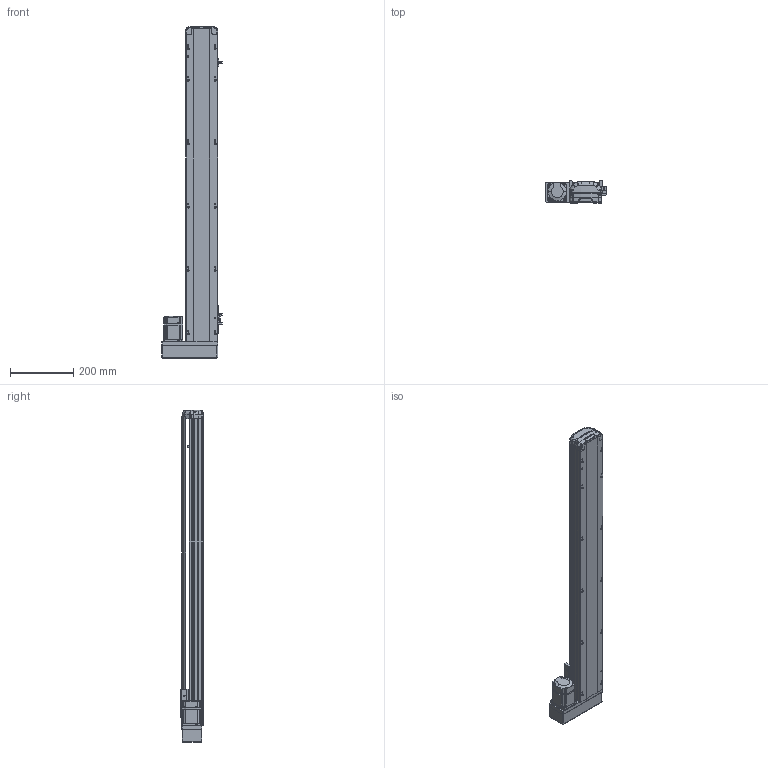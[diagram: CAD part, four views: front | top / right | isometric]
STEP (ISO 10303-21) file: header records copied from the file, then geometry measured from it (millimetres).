
FILE_DESCRIPTION (( 'STEP AP214' ), '1' );
FILE_NAME ('RTH10-XX-800-L-M20-C4.STEP', '2025-10-25T03:48:58', ( 'Microsoft' ), ( 'Microsoft' ), 'SwSTEP 2.0', 'SolidWorks 2018', '' );
FILE_SCHEMA (( 'AUTOMOTIVE_DESIGN' ));
Length unit declared in the file: millimetre
Products named in the file (10): N_200W-1^RTH10-XX-XX-L-M20-C4; N_RTH13-L-012覜茼え俋离^RTH10-XX-XX-L-M20-C4; N_RTH12-M-011P-臏倰第菁釱^RTH10-XX-XX-L-M20-C4; N_RTH12-M-007P-奻裔^RTH10-XX-XX-L-M20-C4; N_RTH12-GY-001P^RTH10-XX-XX-L-M20-C4; RTH10-XX-800-L-M20-C4; N_OMRON EE-SX672 传感器^RTH10-XX-XX-L-M20-C4; N_RTH12-GY-004-賑釱^RTH10-XX-XX-L-M20-C4; N_RTH12-L-018-裔赽^RTH10-XX-XX-L-M20-C4; N_RTH12-L-008萇儂啣^RTH10-XX-XX-L-M20-C4
Assembly tree (11 placements, depth 2):
  RTH10-XX-800-L-M20-C4
    N_RTH12-M-011P-臏倰第菁釱^RTH10-XX-XX-L-M20-C4
    N_RTH13-L-012覜茼え俋离^RTH10-XX-XX-L-M20-C4
    N_OMRON EE-SX672 传感器^RTH10-XX-XX-L-M20-C4  x3
    N_200W-1^RTH10-XX-XX-L-M20-C4
    N_RTH12-M-007P-奻裔^RTH10-XX-XX-L-M20-C4
    N_RTH12-L-008萇儂啣^RTH10-XX-XX-L-M20-C4
    N_RTH12-L-018-裔赽^RTH10-XX-XX-L-M20-C4
    N_RTH12-GY-004-賑釱^RTH10-XX-XX-L-M20-C4
    N_RTH12-GY-001P^RTH10-XX-XX-L-M20-C4
Bounding box: 190 x 70 x 1047.31 mm (x, y, z)
Volume: 4612349.6 mm3; surface area: 696986.7 mm2
Topology: 10 solids, 12 shells, 1996 faces, 5575 edges, 3661 vertices
Faces by surface type: plane 987, cylinder 502, bspline 472, cone 29, sphere 4, torus 2
Entity records: 60317 total; most frequent: CARTESIAN_POINT 23581, ORIENTED_EDGE 8222, DIRECTION 6389, EDGE_CURVE 4117, VERTEX_POINT 2705, LINE 2195, VECTOR 2195, AXIS2_PLACEMENT_3D 2097
